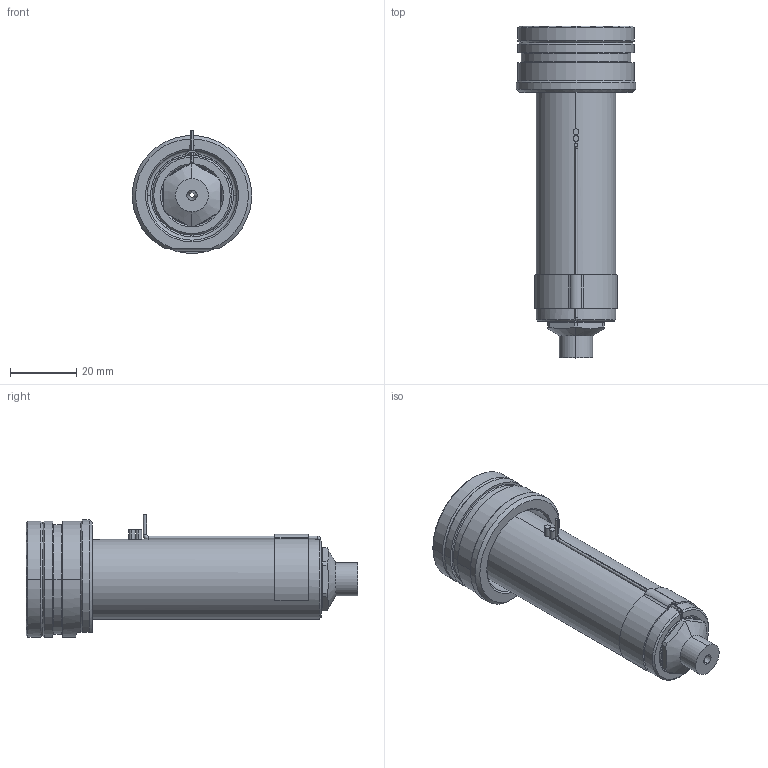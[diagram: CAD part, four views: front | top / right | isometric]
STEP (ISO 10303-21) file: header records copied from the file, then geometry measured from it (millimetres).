
FILE_DESCRIPTION((''),'2;1');
FILE_NAME('EO06_VG-ST_STD_080_SW','2024-02-19T12:37:42',('sundharh'),(''),'CREO PARAMETRIC BY PTC INC, 2023154','CREO PARAMETRIC BY PTC INC, 2023154','');
FILE_SCHEMA(('CONFIG_CONTROL_DESIGN'));
Length unit declared in the file: millimetre
Products named in the file (1): EO06_VG-ST_STD_080_SW
Bounding box: 35.93 x 100 x 37 mm (x, y, z)
Volume: 47530.7 mm3; surface area: 14415.5 mm2
Topology: 2 solids, 2 shells, 176 faces, 448 edges, 273 vertices
Faces by surface type: cylinder 68, plane 41, cone 34, torus 21, bspline 10, sphere 2
Entity records: 6074 total; most frequent: CARTESIAN_POINT 1756, DIRECTION 954, ORIENTED_EDGE 884, EDGE_CURVE 442, AXIS2_PLACEMENT_3D 399, VERTEX_POINT 273, CIRCLE 233, EDGE_LOOP 189
